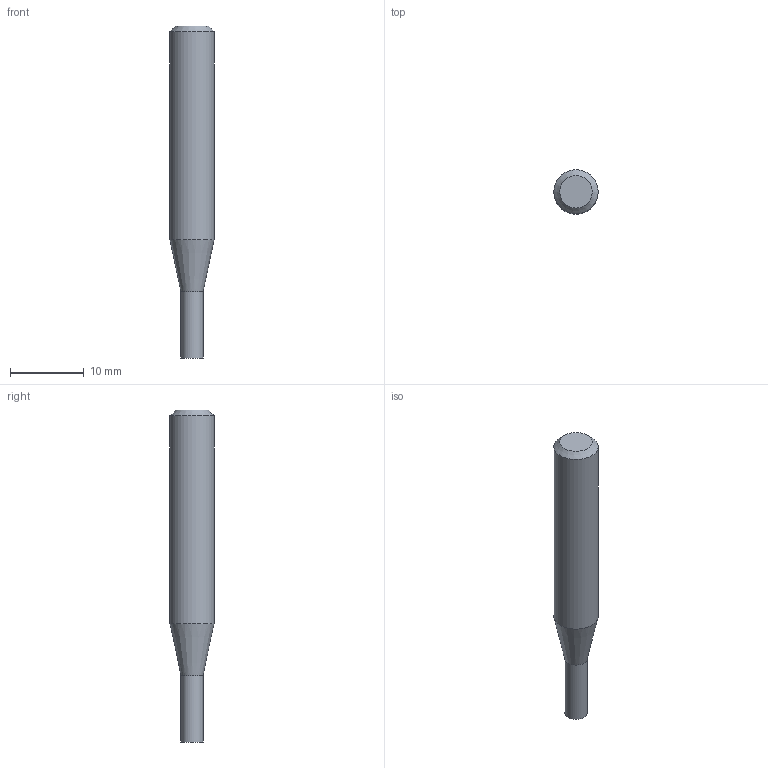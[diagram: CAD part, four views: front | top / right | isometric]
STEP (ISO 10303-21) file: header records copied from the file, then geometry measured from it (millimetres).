
FILE_DESCRIPTION((''),'2;1');
FILE_NAME('C:\Users\nsx150\AppData\Local\Temp\Mastercam 2021\E36A1X9CCL\TEMP.step','2023-04-21T15:18:23',(''),(''),'STEP Write','Mastercam 2021 ... CNC Software, Inc.','');
FILE_SCHEMA(('AUTOMOTIVE_DESIGN'));
Length unit declared in the file: millimetre
Products named in the file (1): None
Bounding box: 6 x 6 x 45 mm (x, y, z)
Volume: 992.9 mm3; surface area: 772.2 mm2
Topology: 2 solids, 2 shells, 8 faces, 10 edges, 6 vertices
Faces by surface type: plane 4, cylinder 2, cone 2
Full cylindrical faces by diameter (mm): 3 x1, 6 x1
Entity records: 190 total; most frequent: DIRECTION 32, CARTESIAN_POINT 22, AXIS2_PLACEMENT_3D 16, ORIENTED_EDGE 12, EDGE_LOOP 12, STYLED_ITEM 11, ADVANCED_FACE 8, VERTEX_POINT 6
